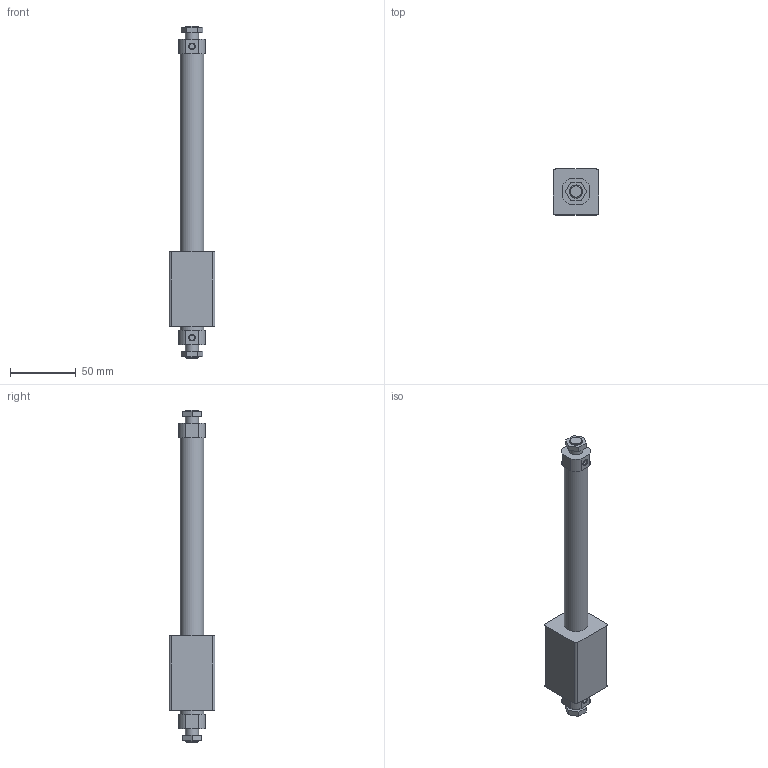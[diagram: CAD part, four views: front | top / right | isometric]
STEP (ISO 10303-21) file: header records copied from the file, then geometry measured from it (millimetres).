
FILE_DESCRIPTION( ( 'STEP AP214' ), '1' );
FILE_NAME( 'C:/Users/EMC02301/Desktop/RU0638 ESW图纸/ESW16x150.stp', '2026-07-27T10:26:33', ( 'License CC BY-ND 4.0' ), ( 'CADENAS' ), ' ', 'PARTsolutions', ' ' );
FILE_SCHEMA( ( 'AUTOMOTIVE_DESIGN { 1 0 10303 214 1 1 1 1 }' ) );
Length unit declared in the file: millimetre
Products named in the file (3): ESW16x150(1); _ESW16x150(0_dummy).boby; _ESW16x150(0_dummy).rod
Assembly tree (2 placements, depth 2):
  ESW16x150(1)
    _ESW16x150(0_dummy).boby
    _ESW16x150(0_dummy).rod
Bounding box: 35 x 35 x 253 mm (x, y, z)
Volume: 118669.6 mm3; surface area: 28700 mm2
Topology: 2 solids, 2 shells, 80 faces, 176 edges, 114 vertices
Faces by surface type: plane 42, cylinder 24, cone 14
Full cylindrical faces by diameter (mm): 3.242 x4, 4.134 x2, 10 x4, 18 x2
Entity records: 2734 total; most frequent: DIRECTION 374, CARTESIAN_POINT 339, ORIENTED_EDGE 292, EDGE_CURVE 146, AXIS2_PLACEMENT_3D 145, EDGE_LOOP 122, VERTEX_POINT 110, FACE_OUTER_BOUND 92
